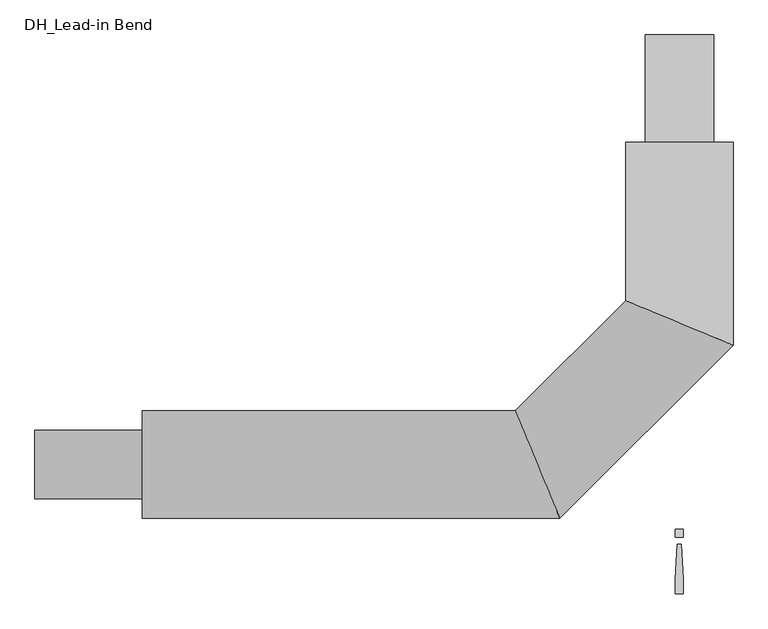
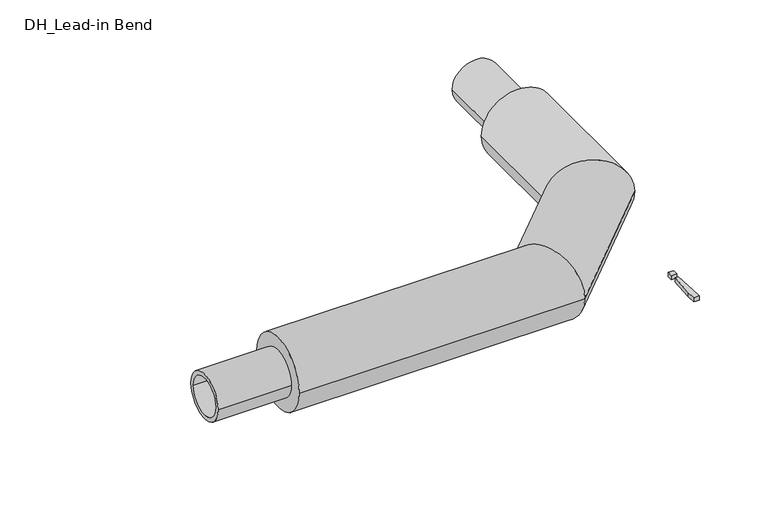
"""IFC4 building model written with IfcOpenShell, lengths in millimetres: pipe fitting geometry, DH_Lead-in Bend : INSULPEX UNO 11 Heating."""

from ifc_helpers import new_model, si_unit, point, frame, origin, origin_with_axes, origin_2d, place, context, project, spatial, polyline, circle_curve, ellipse_curve, trimmed, segment, composite_curve, outline, extrude, source, transform, mapped, element, save
from ifc_brep_helpers import plane_surface, cylinder_surface, advanced_brep


def dh_lead_in_bend_900e78fb(model_context):
    return source(origin(), model_context, "Body", "SolidModel", [
        advanced_brep(
        [(-1250.0, -125.0, 0.0), (-1250.0, 125.0, 0.0), (-278.2233047, -125.0, 0.0), (-381.7766953, 125.0, 0.0), (125.0, 750.0, 0.0), (-125.0, 750.0, 0.0), (-125.0, 381.7766953, 0.0), (125.0, 278.2233047, 0.0)],
        [
            (0, 1, circle_curve(frame((-1250.0, 0.0, 0.0), z_axis=(-1.0, 0.0, 0.0), x_axis=(0.0, 1.0, 0.0)), 125.0)),
            (1, 0, circle_curve(frame((-1250.0, 0.0, 0.0), z_axis=(-1.0, 0.0, 0.0), x_axis=(0.0, 1.0, 0.0)), 125.0)),
            (0, 2),
            (2, 3, ellipse_curve(frame((-330.0, 0.0, 0.0), z_axis=(-0.923879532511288, -0.38268343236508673, 0.0), x_axis=(-0.38268343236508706, 0.9238795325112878, 0.0)), 135.299025, 125.0)),
            (3, 1),
            (3, 2, ellipse_curve(frame((-330.0, 0.0, 0.0), z_axis=(-0.923879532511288, -0.38268343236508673, 0.0), x_axis=(-0.38268343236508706, 0.9238795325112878, 0.0)), 135.299025, 125.0)),
            (4, 5, circle_curve(frame((0.0, 750.0, 0.0), z_axis=(0.0, 1.0, 0.0), x_axis=(-1.0, 0.0, 0.0)), 125.0)),
            (5, 4, circle_curve(frame((0.0, 750.0, 0.0), z_axis=(0.0, 1.0, 0.0), x_axis=(-1.0, 0.0, 0.0)), 125.0)),
            (6, 7, ellipse_curve(frame((0.0, 330.0, 0.0), z_axis=(0.3826834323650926, 0.9238795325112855, 0.0), x_axis=(0.9238795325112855, -0.3826834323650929, 0.0)), 135.299025, 125.0)),
            (7, 4),
            (5, 6),
            (7, 6, ellipse_curve(frame((0.0, 330.0, 0.0), z_axis=(0.3826834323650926, 0.9238795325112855, 0.0), x_axis=(0.9238795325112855, -0.3826834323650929, 0.0)), 135.299025, 125.0)),
            (2, 7),
            (6, 3),
        ],
        [
            plane_surface(frame((-1250.0, 0.0, 0.0), z_axis=(-1.0, 0.0, 0.0), x_axis=(0.0, 0.0, 1.0))),
            cylinder_surface(frame((-1250.0, 0.0, 0.0), z_axis=(-1.0, 0.0, 0.0), x_axis=(0.0, 1.0, 0.0)), 125.0),
            plane_surface(frame((0.0, 750.0, 0.0), z_axis=(0.0, 1.0, 0.0), x_axis=(0.0, 0.0, 1.0))),
            cylinder_surface(frame((0.0, 330.0, 0.0), z_axis=(0.0, -1.0, 0.0), x_axis=(-1.0, 0.0, 0.0)), 125.0),
            cylinder_surface(frame((-330.0, 0.0, 0.0), z_axis=(-0.7071067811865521, -0.7071067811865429, 0.0), x_axis=(-0.7071067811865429, 0.7071067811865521, 0.0)), 125.0),
        ],
        [
            (0, [[1, 2]]),
            (1, [[-1, 3, 4, 5]]),
            (1, [[-2, -5, 6, -3]]),
            (2, [[7, 8]]),
            (3, [[9, 10, -8, 11]]),
            (3, [[12, -11, -7, -10]]),
            (4, [[-4, 13, -9, 14]]),
            (4, [[-6, -14, -12, -13]]),
        ],
    ),
        extrude(outline(polyline([(4.7088895, -185.3166715), (9.4177791, -266.6553807), (9.4177791, -300.6844652), (-9.4177791, -300.6844652), (-9.4177791, -266.6553807), (-4.7088895, -185.3166715), (4.7088895, -185.3166715)])), origin_with_axes(), (0.0, 0.0, 1.0), 15.0),
        extrude(outline(polyline([(9.4177791, -150.0), (9.4177791, -168.8355582), (-9.4177791, -168.8355582), (-9.4177791, -150.0), (9.4177791, -150.0)])), origin_with_axes(), (0.0, 0.0, 1.0), 15.0),
        extrude(outline(composite_curve([segment(trimmed(circle_curve(origin_2d(), 80.0), [point((-80.0, 0.0))], [point((80.0, 0.0))], False, "CARTESIAN"), True, "CONTINUOUS"), segment(trimmed(circle_curve(origin_2d(), 80.0), [point((80.0, 0.0))], [point((-80.0, 0.0))], False, "CARTESIAN"), True, "CONTINUOUS")], self_intersect=False), holes=[composite_curve([segment(trimmed(circle_curve(origin_2d(), 65.4), [point((-65.4, 0.0))], [point((65.4, 0.0))], True, "CARTESIAN"), True, "CONTINUOUS"), segment(trimmed(circle_curve(origin_2d(), 65.4), [point((65.4, 0.0))], [point((-65.4, 0.0))], True, "CARTESIAN"), True, "CONTINUOUS")], self_intersect=False)]), frame((-1500.0, 0.0, 0.0), z_axis=(1.0, 0.0, 0.0), x_axis=(0.0, 1.0, 0.0)), (0.0, 0.0, 1.0), 250.0),
        extrude(outline(composite_curve([segment(trimmed(circle_curve(origin_2d(), 80.0), [point((0.0, 80.0))], [point((0.0, -80.0))], False, "CARTESIAN"), True, "CONTINUOUS"), segment(trimmed(circle_curve(origin_2d(), 80.0), [point((0.0, -80.0))], [point((0.0, 80.0))], False, "CARTESIAN"), True, "CONTINUOUS")], self_intersect=False), holes=[composite_curve([segment(trimmed(circle_curve(origin_2d(), 65.4), [point((0.0, 65.4))], [point((0.0, -65.4))], True, "CARTESIAN"), True, "CONTINUOUS"), segment(trimmed(circle_curve(origin_2d(), 65.4), [point((0.0, -65.4))], [point((0.0, 65.4))], True, "CARTESIAN"), True, "CONTINUOUS")], self_intersect=False)]), frame((0.0, 750.0, 0.0), z_axis=(0.0, 1.0, 0.0), x_axis=(0.0, 0.0, 1.0)), (0.0, 0.0, 1.0), 250.0),
    ])


if __name__ == "__main__":
    model = new_model("IFC4")
    model_context = context("Model", 3, world=origin())
    ifc_project = project(units=[si_unit("LENGTHUNIT", "METRE", prefix="MILLI")], contexts=[model_context])
    site = spatial("IfcSite", under=ifc_project)
    building = spatial("IfcBuilding", under=site)
    placement = place(None, origin())
    dh_lead_in_bend_shape = dh_lead_in_bend_900e78fb(model_context)
    element("IfcPipeFitting", 1, ObjectType="DH_Lead-in Bend : INSULPEX UNO 11 Heating", at=placement, inside=building, context=model_context, shape_type="MappedRepresentation", body=[
        mapped(dh_lead_in_bend_shape, transform((0.0, 0.0, 0.0), x_axis=(1.0, 0.0, 0.0), y_axis=(0.0, 1.0, 0.0), z_axis=(0.0, 0.0, 1.0))),
    ])
    save(model, "model.ifc")
